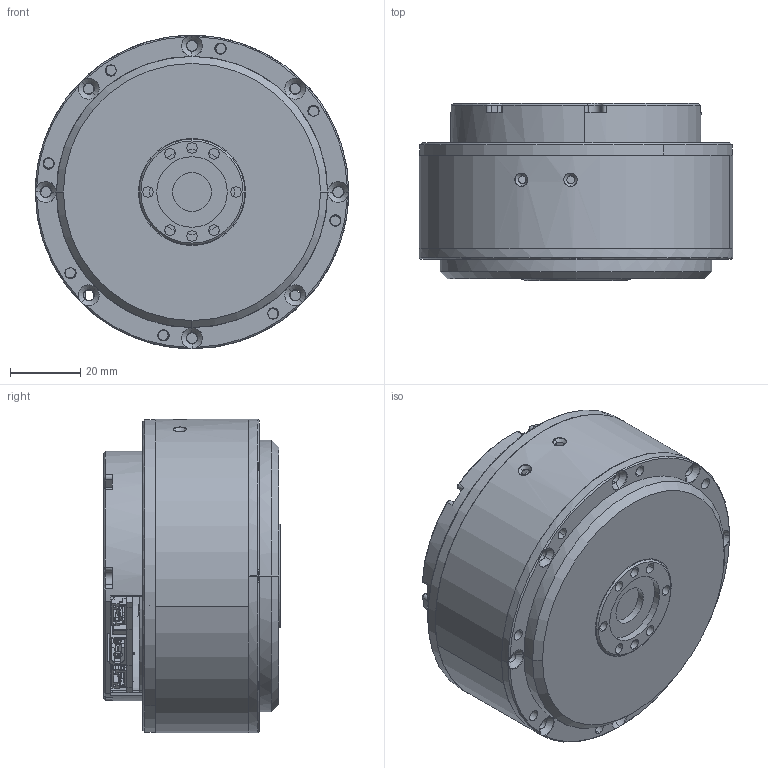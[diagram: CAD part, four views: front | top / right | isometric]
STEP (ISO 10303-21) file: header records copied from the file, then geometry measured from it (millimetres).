
FILE_DESCRIPTION (( 'STEP AP203' ), '1' );
FILE_NAME ('AK70-10 V2.0.STEP', '2026-07-29T07:34:00', ( '微软用户' ), ( '微软中国' ), 'SwSTEP 2.0', 'SolidWorks 2020', '' );
FILE_SCHEMA (( 'CONFIG_CONTROL_DESIGN' ));
Length unit declared in the file: millimetre
Products named in the file (1): AK70-10 V2.0
Bounding box: 89 x 50.25 x 89 mm (x, y, z)
Surface area: 51358.1 mm2 (no closed solid volume)
Topology: 0 solids, 44 shells, 439 faces, 1966 edges, 1527 vertices
Faces by surface type: cylinder 195, plane 164, cone 64, torus 12, bspline 4
Entity records: 22948 total; most frequent: CARTESIAN_POINT 8054, ORIENTED_EDGE 2814, DIRECTION 2779, EDGE_CURVE 1966, VERTEX_POINT 1527, AXIS2_PLACEMENT_3D 1195, B_SPLINE_CURVE_WITH_KNOTS 812, CIRCLE 759
